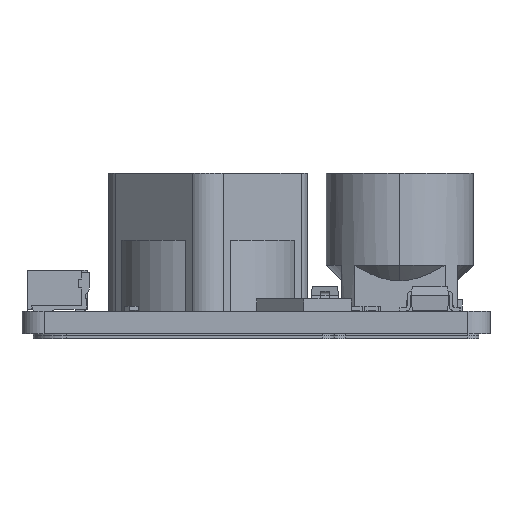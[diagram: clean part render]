
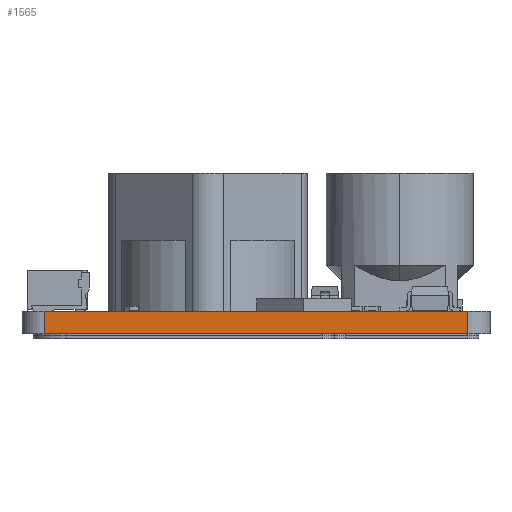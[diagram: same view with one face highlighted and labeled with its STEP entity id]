
A CAD part, front view. The second image highlights one B-rep face of the part: STEP entity #1565.
In plain terms, the highlighted planar face has unit normal (0, -1, 0).
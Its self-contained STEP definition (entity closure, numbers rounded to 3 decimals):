
#526 = ORIENTED_EDGE ( 'NONE', *, *, #27923, .T. ) ;
#1038 = VECTOR ( 'NONE', #17567, 1000. ) ;
#1565 = ADVANCED_FACE ( 'NONE', ( #6061 ), #23149, .F. ) ;
#1680 = ORIENTED_EDGE ( 'NONE', *, *, #25924, .T. ) ;
#3105 = VERTEX_POINT ( 'NONE', #25658 ) ;
#5268 = CARTESIAN_POINT ( 'NONE',  ( 1., 0., -1. ) ) ;
#5293 = LINE ( 'NONE', #15487, #24603 ) ;
#6061 = FACE_OUTER_BOUND ( 'NONE', #9504, .T. ) ;
#7049 = DIRECTION ( 'NONE',  ( 0., 0., 1. ) ) ;
#7378 = LINE ( 'NONE', #25082, #10021 ) ;
#9462 = LINE ( 'NONE', #19684, #11714 ) ;
#9504 = EDGE_LOOP ( 'NONE', ( #22154, #32666, #526, #1680 ) ) ;
#10021 = VECTOR ( 'NONE', #7049, 1000. ) ;
#10431 = DIRECTION ( 'NONE',  ( 1., 0., 0. ) ) ;
#11714 = VECTOR ( 'NONE', #29859, 1000. ) ;
#12759 = EDGE_CURVE ( 'NONE', #20351, #24632, #20076, .T. ) ;
#12973 = DIRECTION ( 'NONE',  ( 1., 0., 0. ) ) ;
#13826 = CARTESIAN_POINT ( 'NONE',  ( 20., 0., 0. ) ) ;
#15487 = CARTESIAN_POINT ( 'NONE',  ( 1., 0., 0. ) ) ;
#17567 = DIRECTION ( 'NONE',  ( 0., 0., 1. ) ) ;
#19684 = CARTESIAN_POINT ( 'NONE',  ( 1., 0., -1. ) ) ;
#20076 = LINE ( 'NONE', #30254, #1038 ) ;
#20351 = VERTEX_POINT ( 'NONE', #26262 ) ;
#22154 = ORIENTED_EDGE ( 'NONE', *, *, #30967, .F. ) ;
#23149 = PLANE ( 'NONE',  #24828 ) ;
#23178 = VERTEX_POINT ( 'NONE', #13826 ) ;
#24603 = VECTOR ( 'NONE', #12973, 1000. ) ;
#24632 = VERTEX_POINT ( 'NONE', #26344 ) ;
#24828 = AXIS2_PLACEMENT_3D ( 'NONE', #5268, #31768, #10431 ) ;
#25082 = CARTESIAN_POINT ( 'NONE',  ( 20., 0., -1. ) ) ;
#25658 = CARTESIAN_POINT ( 'NONE',  ( 20., 0., -1. ) ) ;
#25924 = EDGE_CURVE ( 'NONE', #3105, #23178, #7378, .T. ) ;
#26262 = CARTESIAN_POINT ( 'NONE',  ( 1., 0., -1. ) ) ;
#26344 = CARTESIAN_POINT ( 'NONE',  ( 1., 0., 0. ) ) ;
#27923 = EDGE_CURVE ( 'NONE', #20351, #3105, #9462, .T. ) ;
#29859 = DIRECTION ( 'NONE',  ( 1., 0., 0. ) ) ;
#30254 = CARTESIAN_POINT ( 'NONE',  ( 1., 0., -1. ) ) ;
#30967 = EDGE_CURVE ( 'NONE', #24632, #23178, #5293, .T. ) ;
#31768 = DIRECTION ( 'NONE',  ( 0., 1., 0. ) ) ;
#32666 = ORIENTED_EDGE ( 'NONE', *, *, #12759, .F. ) ;
